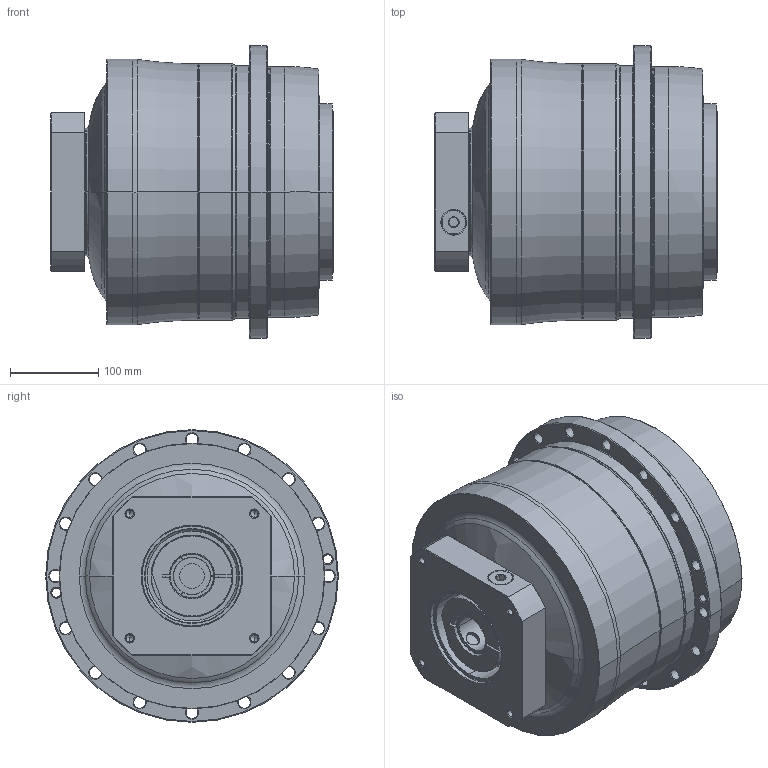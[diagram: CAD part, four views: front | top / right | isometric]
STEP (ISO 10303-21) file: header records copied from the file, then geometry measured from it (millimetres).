
FILE_DESCRIPTION((''),'2;1');
FILE_NAME('AH285_2ST_42-P0409A00101_ASM','2016-08-16T',('d01943'),(''),'PRO/ENGINEER BY PARAMETRIC TECHNOLOGY CORPORATION, 2008410','PRO/ENGINEER BY PARAMETRIC TECHNOLOGY CORPORATION, 2008410','');
FILE_SCHEMA(('CONFIG_CONTROL_DESIGN'));
Length unit declared in the file: millimetre
Products named in the file (8): P0278800003; P0359800003; P1317800201; P0409A00101; P0503A00012; P0912702001; 21711422019; AH285_2ST_42-P0409A00101_ASM
Assembly tree (7 placements, depth 2):
  AH285_2ST_42-P0409A00101_ASM
    P0278800003
    P0359800003
    P1317800201
    P0409A00101
    P0503A00012
    P0912702001
    21711422019
Bounding box: 320.5 x 332 x 332 mm (x, y, z)
Volume: 17987133 mm3; surface area: 958653.5 mm2
Topology: 8 solids, 8 shells, 589 faces, 1337 edges, 781 vertices
Faces by surface type: cylinder 218, cone 194, plane 95, torus 66, bspline 16
Entity records: 20907 total; most frequent: CARTESIAN_POINT 7402, DIRECTION 3051, ORIENTED_EDGE 2582, EDGE_CURVE 1291, AXIS2_PLACEMENT_3D 1284, VERTEX_POINT 781, EDGE_LOOP 702, CIRCLE 696
